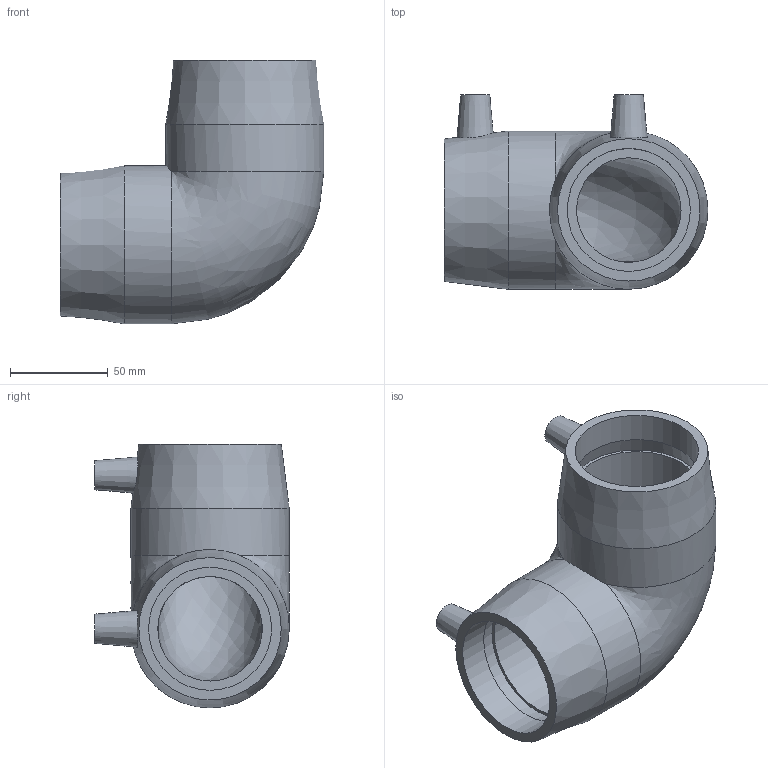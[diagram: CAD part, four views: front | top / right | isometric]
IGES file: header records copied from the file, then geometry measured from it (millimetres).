
Global section: file name: 490504063.ipt; native system: Autodesk Inventor 2015; preprocessor: unknown; author: KIM; date: 20171106.093635; units: millimetre
Bounding box: 135.05 x 99.5 x 135.05 mm (x, y, z)
Volume: 380128.8 mm3; surface area: 83642.7 mm2
Topology: 1 solids, 1 shells, 30 faces, 68 edges, 46 vertices
Faces by surface type: plane 12, revolution 9, cylinder 4, cone 4, bspline 1
Full cylindrical faces by diameter (mm): 4 x2, 81 x2
